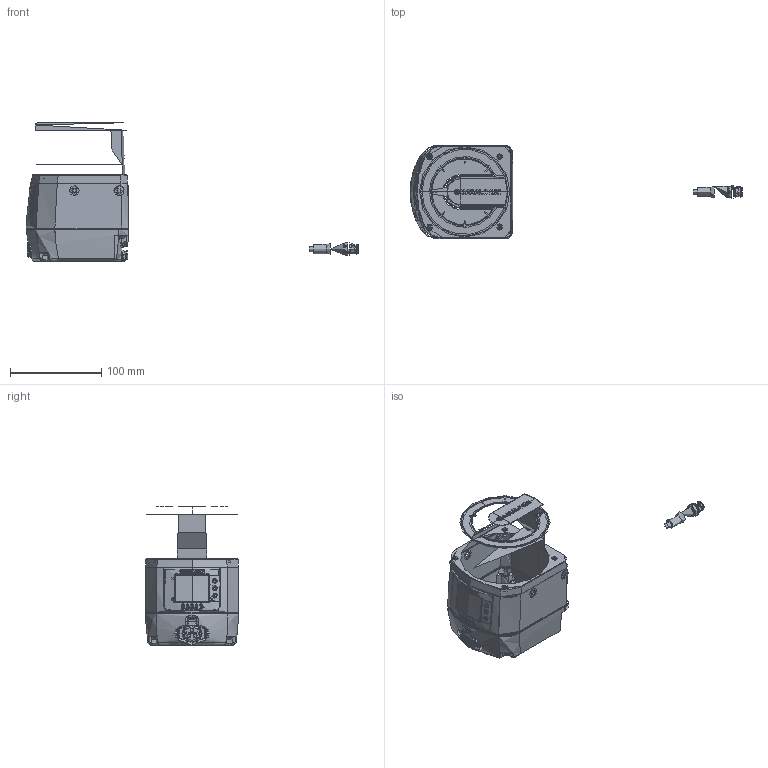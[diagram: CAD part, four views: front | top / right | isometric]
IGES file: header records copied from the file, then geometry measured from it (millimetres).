
Global section: file name: D:\CS\IDF\PCB\DSD-0899_SLS-SA-5.igs; native system: NX V10.0; preprocessor: SIEMENS PLM Software NX 10.0; date: 20180327.115143; units: millimetre
Bounding box: 364.2 x 102 x 152.2 mm (x, y, z)
Surface area: 94564.8 mm2 (no closed solid volume)
Topology: 0 solids, 0 shells, 1535 faces, 13563 edges, 13457 vertices
Faces by surface type: bspline 1534, offset 1
